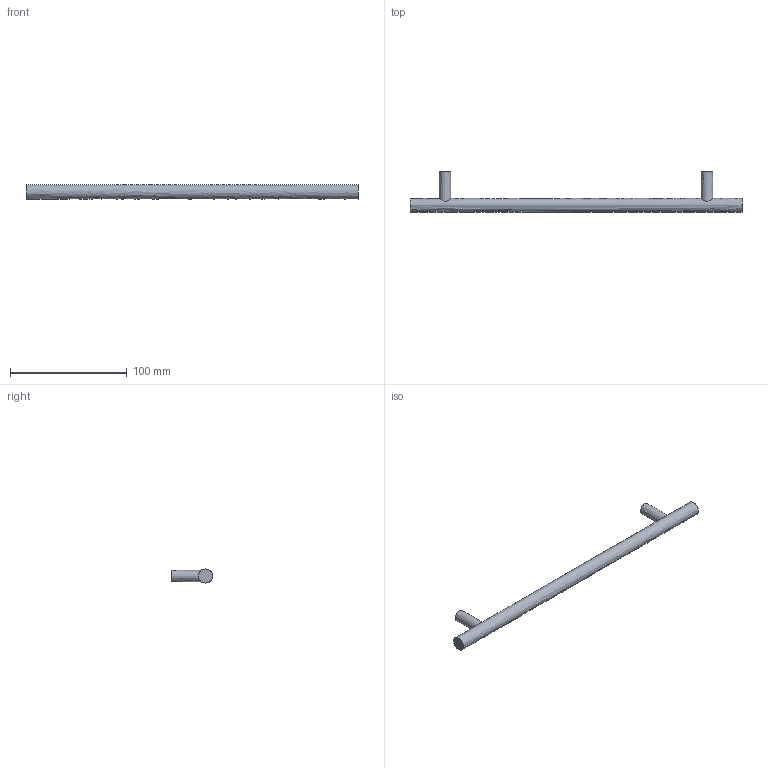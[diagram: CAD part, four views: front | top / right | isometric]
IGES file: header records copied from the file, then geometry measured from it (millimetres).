
Start section: Data from Parasolid IGES Translator 15.0.47, Copyright(c) 2006 Siemens P LM Software. All Rights Reserved.
Global section: file name: 9071012.igs; native system:  By UGS Corp.; preprocessor: XPlus GENERIC/IGES 3.0; author: Noname; organization: Noname; date: 20140122.181309; units: millimetre
Bounding box: 284 x 35 x 12 mm (x, y, z)
Surface area: 12738.1 mm2 (no closed solid volume)
Topology: 0 solids, 0 shells, 11 faces, 30 edges, 22 vertices
Faces by surface type: extrusion 6, revolution 5
